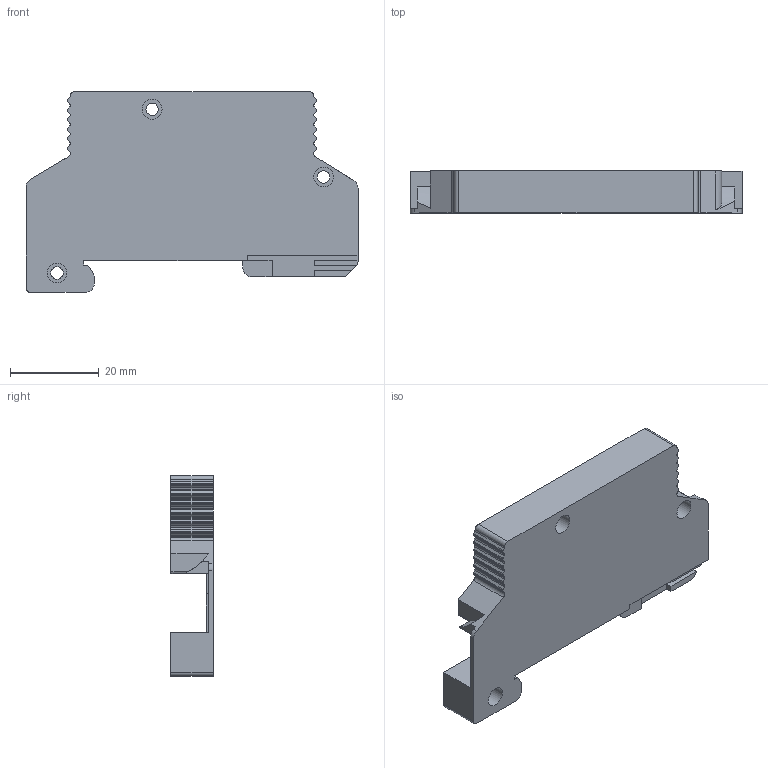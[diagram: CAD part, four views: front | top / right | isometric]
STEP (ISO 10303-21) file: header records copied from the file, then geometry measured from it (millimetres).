
FILE_DESCRIPTION (( 'STEP AP214' ), '1' );
FILE_NAME ('Ïîëîâèíêà êîðïóñà.STEP', '2024-11-02T18:23:19', ( '' ), ( '' ), 'SwSTEP 2.0', 'SolidWorks 2022', '' );
FILE_SCHEMA (( 'AUTOMOTIVE_DESIGN' ));
Length unit declared in the file: millimetre
Products named in the file (1): Ïîëîâèíêà êîðïóñà
Bounding box: 75 x 9.5 x 45.4 mm (x, y, z)
Volume: 7331.5 mm3; surface area: 9897.8 mm2
Topology: 1 solids, 1 shells, 240 faces, 687 edges, 458 vertices
Faces by surface type: plane 148, cylinder 92
Full cylindrical faces by diameter (mm): 1.9 x1, 2.8 x3, 3 x2, 4.5 x3, 4.8 x3
Entity records: 7834 total; most frequent: CARTESIAN_POINT 1409, ORIENTED_EDGE 1344, DIRECTION 1326, EDGE_CURVE 672, LINE 486, VECTOR 486, VERTEX_POINT 455, AXIS2_PLACEMENT_3D 420
